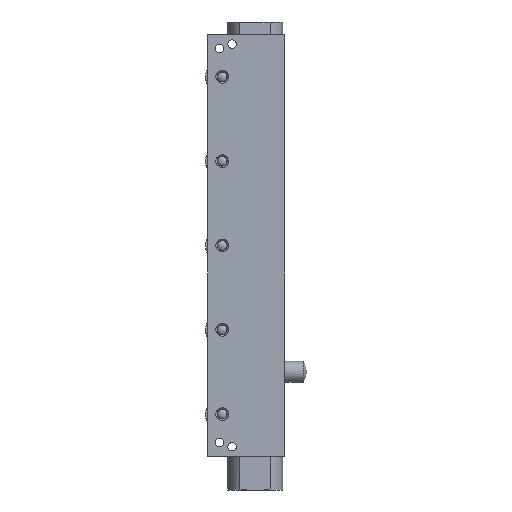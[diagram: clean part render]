
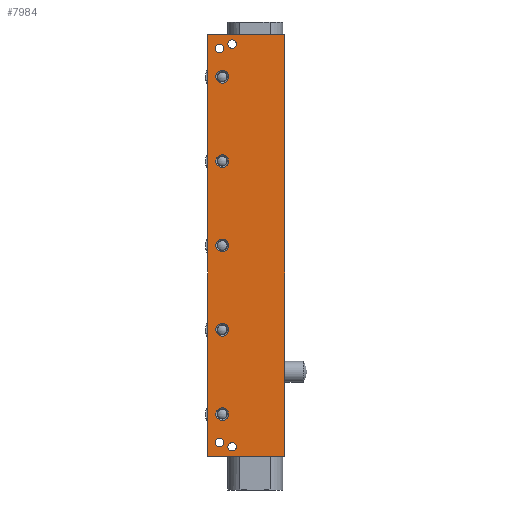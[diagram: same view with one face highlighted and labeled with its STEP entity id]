
A CAD part, left-side view. The second image highlights one B-rep face of the part: STEP entity #7984.
In plain terms, the highlighted planar face has unit normal (-1, 0, 0).
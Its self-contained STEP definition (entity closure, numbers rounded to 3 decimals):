
#280=FACE_BOUND('',#1342,.T.);
#281=FACE_BOUND('',#1343,.T.);
#282=FACE_BOUND('',#1344,.T.);
#283=FACE_BOUND('',#1345,.T.);
#284=FACE_BOUND('',#1346,.T.);
#285=FACE_BOUND('',#1347,.T.);
#286=FACE_BOUND('',#1348,.T.);
#287=FACE_BOUND('',#1349,.T.);
#288=FACE_BOUND('',#1350,.T.);
#431=PLANE('',#9005);
#868=FACE_OUTER_BOUND('',#1341,.T.);
#1341=EDGE_LOOP('',(#6599,#6600,#6601,#6602));
#1342=EDGE_LOOP('',(#6603));
#1343=EDGE_LOOP('',(#6604));
#1344=EDGE_LOOP('',(#6605,#6606));
#1345=EDGE_LOOP('',(#6607,#6608));
#1346=EDGE_LOOP('',(#6609,#6610));
#1347=EDGE_LOOP('',(#6611,#6612));
#1348=EDGE_LOOP('',(#6613));
#1349=EDGE_LOOP('',(#6614));
#1350=EDGE_LOOP('',(#6615));
#1703=LINE('',#13578,#2065);
#1709=LINE('',#13615,#2071);
#1747=LINE('',#13944,#2109);
#1748=LINE('',#13945,#2110);
#2065=VECTOR('',#11022,10.);
#2071=VECTOR('',#11054,10.);
#2109=VECTOR('',#11288,10.);
#2110=VECTOR('',#11289,10.);
#2707=CIRCLE('',#8921,3.);
#2724=CIRCLE('',#8948,2.);
#2725=CIRCLE('',#8949,2.);
#2727=CIRCLE('',#8953,2.);
#2728=CIRCLE('',#8954,2.);
#2733=CIRCLE('',#8961,2.);
#2734=CIRCLE('',#8962,2.);
#2737=CIRCLE('',#8968,2.);
#2738=CIRCLE('',#8969,2.);
#2746=CIRCLE('',#8982,3.);
#2751=CIRCLE('',#8989,3.);
#2756=CIRCLE('',#8996,3.);
#2763=CIRCLE('',#9006,3.);
#3440=VERTEX_POINT('',#13576);
#3441=VERTEX_POINT('',#13577);
#3458=VERTEX_POINT('',#13612);
#3459=VERTEX_POINT('',#13614);
#3472=VERTEX_POINT('',#13652);
#3493=VERTEX_POINT('',#13772);
#3494=VERTEX_POINT('',#13773);
#3496=VERTEX_POINT('',#13782);
#3497=VERTEX_POINT('',#13783);
#3501=VERTEX_POINT('',#13796);
#3502=VERTEX_POINT('',#13797);
#3505=VERTEX_POINT('',#13810);
#3506=VERTEX_POINT('',#13811);
#3518=VERTEX_POINT('',#13896);
#3523=VERTEX_POINT('',#13910);
#3528=VERTEX_POINT('',#13924);
#3535=VERTEX_POINT('',#13946);
#4489=EDGE_CURVE('',#3440,#3441,#1703,.T.);
#4507=EDGE_CURVE('',#3459,#3458,#1709,.T.);
#4527=EDGE_CURVE('',#3472,#3472,#2707,.T.);
#4558=EDGE_CURVE('',#3493,#3494,#2724,.T.);
#4559=EDGE_CURVE('',#3494,#3493,#2725,.T.);
#4563=EDGE_CURVE('',#3496,#3497,#2727,.T.);
#4564=EDGE_CURVE('',#3497,#3496,#2728,.T.);
#4570=EDGE_CURVE('',#3501,#3502,#2733,.T.);
#4571=EDGE_CURVE('',#3502,#3501,#2734,.T.);
#4577=EDGE_CURVE('',#3505,#3506,#2737,.T.);
#4578=EDGE_CURVE('',#3506,#3505,#2738,.T.);
#4598=EDGE_CURVE('',#3518,#3518,#2746,.T.);
#4605=EDGE_CURVE('',#3523,#3523,#2751,.T.);
#4612=EDGE_CURVE('',#3528,#3528,#2756,.T.);
#4622=EDGE_CURVE('',#3441,#3458,#1747,.T.);
#4623=EDGE_CURVE('',#3459,#3440,#1748,.T.);
#4624=EDGE_CURVE('',#3535,#3535,#2763,.T.);
#6599=ORIENTED_EDGE('',*,*,#4507,.T.);
#6600=ORIENTED_EDGE('',*,*,#4622,.F.);
#6601=ORIENTED_EDGE('',*,*,#4489,.F.);
#6602=ORIENTED_EDGE('',*,*,#4623,.F.);
#6603=ORIENTED_EDGE('',*,*,#4612,.F.);
#6604=ORIENTED_EDGE('',*,*,#4598,.F.);
#6605=ORIENTED_EDGE('',*,*,#4577,.T.);
#6606=ORIENTED_EDGE('',*,*,#4578,.T.);
#6607=ORIENTED_EDGE('',*,*,#4570,.T.);
#6608=ORIENTED_EDGE('',*,*,#4571,.T.);
#6609=ORIENTED_EDGE('',*,*,#4563,.T.);
#6610=ORIENTED_EDGE('',*,*,#4564,.T.);
#6611=ORIENTED_EDGE('',*,*,#4558,.T.);
#6612=ORIENTED_EDGE('',*,*,#4559,.T.);
#6613=ORIENTED_EDGE('',*,*,#4527,.F.);
#6614=ORIENTED_EDGE('',*,*,#4605,.F.);
#6615=ORIENTED_EDGE('',*,*,#4624,.F.);
#7984=ADVANCED_FACE('',(#868,#280,#281,#282,#283,#284,#285,#286,#287,#288),
#431,.T.);
#8921=AXIS2_PLACEMENT_3D('',#13653,#11092,#11093);
#8948=AXIS2_PLACEMENT_3D('',#13774,#11154,#11155);
#8949=AXIS2_PLACEMENT_3D('',#13775,#11156,#11157);
#8953=AXIS2_PLACEMENT_3D('',#13784,#11166,#11167);
#8954=AXIS2_PLACEMENT_3D('',#13785,#11168,#11169);
#8961=AXIS2_PLACEMENT_3D('',#13798,#11183,#11184);
#8962=AXIS2_PLACEMENT_3D('',#13799,#11185,#11186);
#8968=AXIS2_PLACEMENT_3D('',#13812,#11200,#11201);
#8969=AXIS2_PLACEMENT_3D('',#13813,#11202,#11203);
#8982=AXIS2_PLACEMENT_3D('',#13897,#11233,#11234);
#8989=AXIS2_PLACEMENT_3D('',#13911,#11249,#11250);
#8996=AXIS2_PLACEMENT_3D('',#13925,#11265,#11266);
#9005=AXIS2_PLACEMENT_3D('',#13943,#11286,#11287);
#9006=AXIS2_PLACEMENT_3D('',#13947,#11290,#11291);
#11022=DIRECTION('',(0.,0.,-1.));
#11054=DIRECTION('',(0.,0.,-1.));
#11092=DIRECTION('center_axis',(-1.,0.,0.));
#11093=DIRECTION('ref_axis',(0.,0.,
-1.));
#11154=DIRECTION('center_axis',(1.,0.,0.));
#11155=DIRECTION('ref_axis',(0.,0.,
1.));
#11156=DIRECTION('center_axis',(1.,0.,0.));
#11157=DIRECTION('ref_axis',(0.,0.,
1.));
#11166=DIRECTION('center_axis',(1.,0.,0.));
#11167=DIRECTION('ref_axis',(0.,0.,
1.));
#11168=DIRECTION('center_axis',(1.,0.,0.));
#11169=DIRECTION('ref_axis',(0.,0.,
1.));
#11183=DIRECTION('center_axis',(1.,0.,0.));
#11184=DIRECTION('ref_axis',(0.,0.,
-1.));
#11185=DIRECTION('center_axis',(1.,0.,0.));
#11186=DIRECTION('ref_axis',(0.,0.,
-1.));
#11200=DIRECTION('center_axis',(1.,0.,0.));
#11201=DIRECTION('ref_axis',(0.,0.,
-1.));
#11202=DIRECTION('center_axis',(1.,0.,0.));
#11203=DIRECTION('ref_axis',(0.,0.,
-1.));
#11233=DIRECTION('center_axis',(-1.,0.,0.));
#11234=DIRECTION('ref_axis',(0.,0.,
-1.));
#11249=DIRECTION('center_axis',(-1.,0.,0.));
#11250=DIRECTION('ref_axis',(0.,0.,
-1.));
#11265=DIRECTION('center_axis',(-1.,0.,0.));
#11266=DIRECTION('ref_axis',(0.,0.,
-1.));
#11286=DIRECTION('center_axis',(-1.,0.,0.));
#11287=DIRECTION('ref_axis',(0.,1.,0.));
#11288=DIRECTION('',(0.,1.,0.));
#11289=DIRECTION('',(0.,-1.,0.));
#11290=DIRECTION('center_axis',(-1.,0.,0.));
#11291=DIRECTION('ref_axis',(0.,0.,
-1.));
#13576=CARTESIAN_POINT('',(-10.9,-18.25,100.));
#13577=CARTESIAN_POINT('',(-10.9,-18.25,-100.));
#13578=CARTESIAN_POINT('',(-10.9,-18.25,0.));
#13612=CARTESIAN_POINT('',(-10.9,18.25,-100.));
#13614=CARTESIAN_POINT('',(-10.9,18.25,100.));
#13615=CARTESIAN_POINT('',(-10.9,18.25,0.));
#13652=CARTESIAN_POINT('',(-10.9,11.45,-77.));
#13653=CARTESIAN_POINT('Origin',(-10.9,11.45,-80.));
#13772=CARTESIAN_POINT('',(-10.9,6.75,-93.5));
#13773=CARTESIAN_POINT('',(-10.9,6.75,-97.5));
#13774=CARTESIAN_POINT('Origin',(-10.9,6.75,-95.5));
#13775=CARTESIAN_POINT('Origin',(-10.9,6.75,-95.5));
#13782=CARTESIAN_POINT('',(-10.9,12.75,-91.5));
#13783=CARTESIAN_POINT('',(-10.9,12.75,-95.5));
#13784=CARTESIAN_POINT('Origin',(-10.9,12.75,-93.5));
#13785=CARTESIAN_POINT('Origin',(-10.9,12.75,-93.5));
#13796=CARTESIAN_POINT('',(-10.9,6.75,93.5));
#13797=CARTESIAN_POINT('',(-10.9,6.75,97.5));
#13798=CARTESIAN_POINT('Origin',(-10.9,6.75,95.5));
#13799=CARTESIAN_POINT('Origin',(-10.9,6.75,95.5));
#13810=CARTESIAN_POINT('',(-10.9,12.75,91.5));
#13811=CARTESIAN_POINT('',(-10.9,12.75,95.5));
#13812=CARTESIAN_POINT('Origin',(-10.9,12.75,93.5));
#13813=CARTESIAN_POINT('Origin',(-10.9,12.75,93.5));
#13896=CARTESIAN_POINT('',(-10.9,11.45,-37.));
#13897=CARTESIAN_POINT('Origin',(-10.9,11.45,-40.));
#13910=CARTESIAN_POINT('',(-10.9,11.45,3.));
#13911=CARTESIAN_POINT('Origin',(-10.9,11.45,0.));
#13924=CARTESIAN_POINT('',(-10.9,11.45,43.));
#13925=CARTESIAN_POINT('Origin',(-10.9,11.45,40.));
#13943=CARTESIAN_POINT('Origin',(-10.9,-18.25,0.));
#13944=CARTESIAN_POINT('',(-10.9,-18.25,-100.));
#13945=CARTESIAN_POINT('',(-10.9,-18.25,100.));
#13946=CARTESIAN_POINT('',(-10.9,11.45,83.));
#13947=CARTESIAN_POINT('Origin',(-10.9,11.45,80.));
